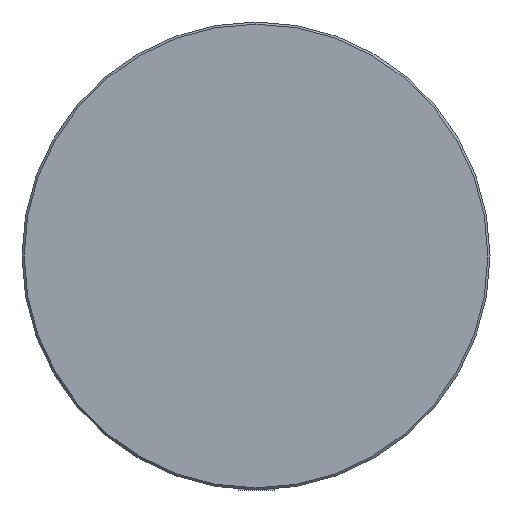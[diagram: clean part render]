
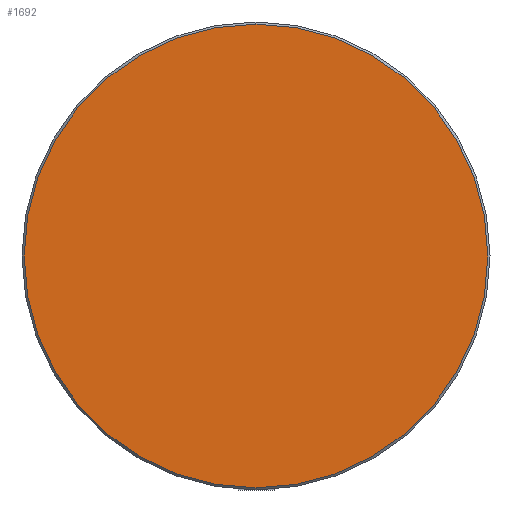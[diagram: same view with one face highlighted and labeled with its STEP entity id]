
A CAD part, front view. The second image highlights one B-rep face of the part: STEP entity #1692.
In plain terms, the highlighted planar face has unit normal (0, -1, 0).
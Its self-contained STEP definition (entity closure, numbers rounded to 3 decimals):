
#1601=CARTESIAN_POINT('',(0.,0.,
0.));
#1602=DIRECTION('',(0.,1.,0.));
#1603=DIRECTION('',(0.,0.,-1.));
#1604=AXIS2_PLACEMENT_3D('',#1601,#1602,#1603);
#1606=CARTESIAN_POINT('',(0.,0.,
0.));
#1607=DIRECTION('',(0.,1.,0.));
#1608=DIRECTION('',(0.,0.,1.));
#1609=AXIS2_PLACEMENT_3D('',#1606,#1607,#1608);
#1677=CARTESIAN_POINT('',(0.,0.,-32.2));
#1678=CARTESIAN_POINT('',(0.,0.,
32.2));
#1679=VERTEX_POINT('',#1677);
#1680=VERTEX_POINT('',#1678);
#1681=CARTESIAN_POINT('',(0.,0.,0.));
#1682=DIRECTION('',(0.,-1.,0.));
#1683=DIRECTION('',(0.,0.,1.));
#1684=AXIS2_PLACEMENT_3D('',#1681,#1682,#1683);
#1685=PLANE('',#1684);
#1687=ORIENTED_EDGE('',*,*,#1686,.T.);
#1689=ORIENTED_EDGE('',*,*,#1688,.T.);
#1690=EDGE_LOOP('',(#1687,#1689));
#1691=FACE_OUTER_BOUND('',#1690,.F.);
#1692=ADVANCED_FACE('',(#1691),#1685,.T.);
#1605=CIRCLE('',#1604,32.2);
#1610=CIRCLE('',#1609,32.2);
#1686=EDGE_CURVE('',#1679,#1680,#1605,.T.);
#1688=EDGE_CURVE('',#1680,#1679,#1610,.T.);
